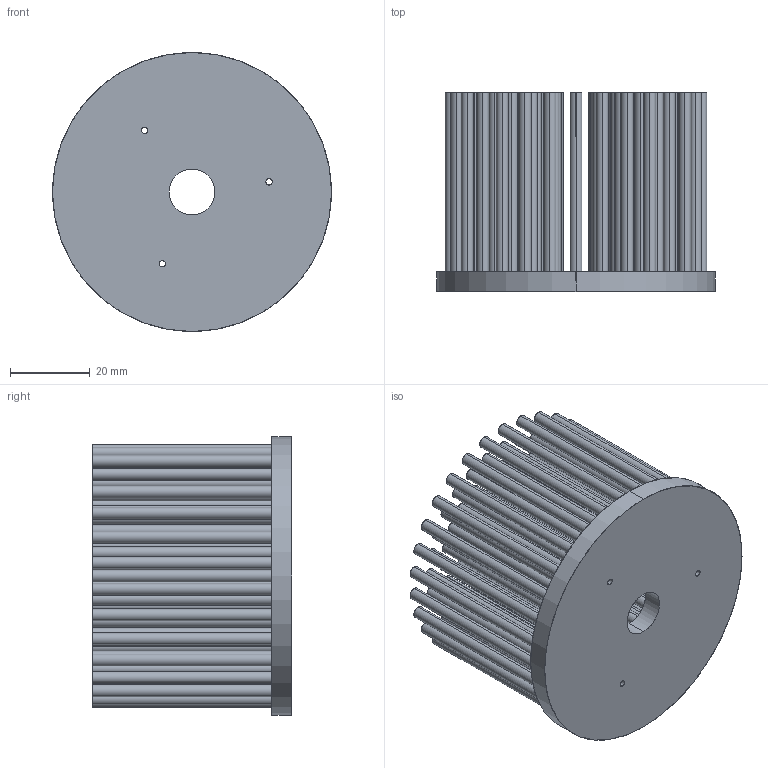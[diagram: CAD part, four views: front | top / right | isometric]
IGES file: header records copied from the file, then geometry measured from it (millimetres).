
Start section: SolidWorks IGES file using analytic representation for surfaces
Global section: file name: C:\Documents and Settings\Administrator\桌面\27-06-2012\M2\XSA-64-M2 (O70mm X 50mm).IGS,1; native system: 5HSolidWorks 2011; preprocessor: SolidWorks 2011; author: Administrator; date: 120627.165746; units: millimetre
Bounding box: 70 x 50 x 70 mm (x, y, z)
Surface area: 56333.6 mm2 (no closed solid volume)
Topology: 0 solids, 0 shells, 348 faces, 8392 edges, 8392 vertices
Faces by surface type: revolution 234, bspline 114
